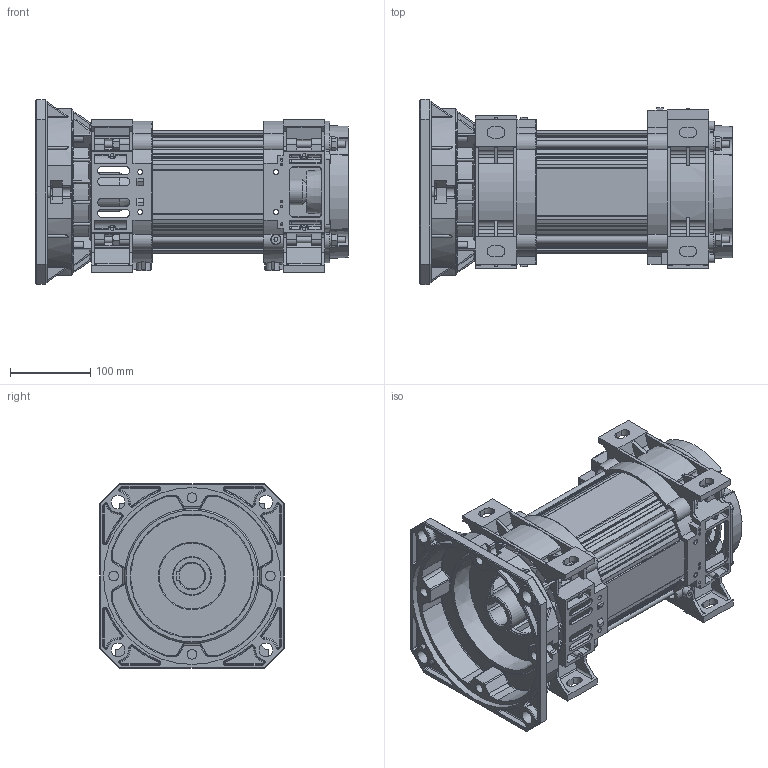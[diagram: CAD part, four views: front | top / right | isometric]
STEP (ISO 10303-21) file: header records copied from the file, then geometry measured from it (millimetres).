
FILE_DESCRIPTION(/* description */ ('Motore Tipo S46 Fl.220 F32-H160 NO Volano NO Piedi'),/* implementation_level */ '2;1');
FILE_NAME(/* name */ 'Y:\ServerTecnico\Mockup Motori x Sito Elmo\Mockup Tipo S46 Size 1 FL220 F32-H160 NO Volano.stp',/* time_stamp */ '2017-03-20T15:29:05+01:00',/* author */ ('aparmini'),/* organization */ (''),/* preprocessor_version */ 'ST-DEVELOPER v16.5',/* originating_system */ 'Autodesk Inventor 2017',/* authorisation */ '');
FILE_SCHEMA (('AUTOMOTIVE_DESIGN { 1 0 10303 214 3 1 1 }'));
Products named in the file (10): Mockup Tipo S46 Size 1 FL220 F32-H160 NO Volano; Mockup Statore Size 1 - F32-H160 NO Volano; TGS10; FA1D220NA-01-07-2015; CA1VS-DSEMI 220 01-07-2015; SEMI FA1SD220N; Mockup CP1XD040N; TI08ML300; UNI 5587 - M8; DIN 125-2 - B 8,4
Assembly tree (22 placements, depth 3):
  Mockup Tipo S46 Size 1 FL220 F32-H160 NO Volano
    Mockup Statore Size 1 - F32-H160 NO Volano
    TGS10
    FA1D220NA-01-07-2015
      CA1VS-DSEMI 220 01-07-2015
      SEMI FA1SD220N
    Mockup CP1XD040N
    UNI 5587 - M8  x8
    TI08ML300  x4
    DIN 125-2 - B 8,4  x4
Bounding box: 389 x 230 x 230 mm (x, y, z)
Volume: 4839406.9 mm3; surface area: 864615.6 mm2
Topology: 21 solids, 21 shells, 2712 faces, 7241 edges, 4577 vertices
Faces by surface type: plane 1098, cylinder 982, cone 289, bspline 223, torus 104, sphere 16
Full cylindrical faces by diameter (mm): 3.2 x5, 4 x8, 4.917 x2, 5 x4, 6.2 x8, 6.647 x8, 8 x4, 8.4 x4, 10 x8, 12 x8, 16 x4, 17 x5, 21 x1, 32 x2, 38 x1, 48 x1, 82 x2, 220 x1
Entity records: 86742 total; most frequent: CARTESIAN_POINT 22463, DIRECTION 13630, ORIENTED_EDGE 13446, EDGE_CURVE 6711, AXIS2_PLACEMENT_3D 5026, VERTEX_POINT 4328, LINE 3578, VECTOR 3578
